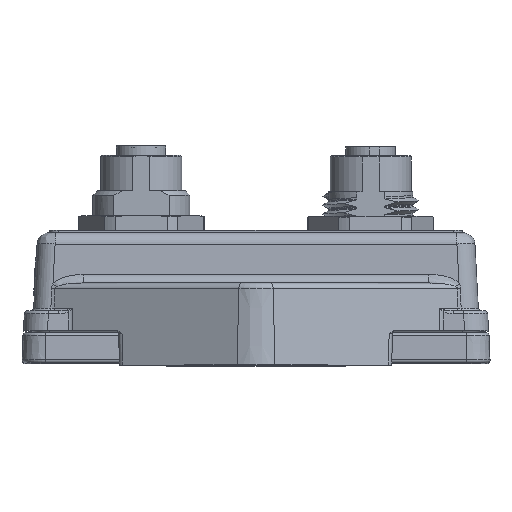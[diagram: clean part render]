
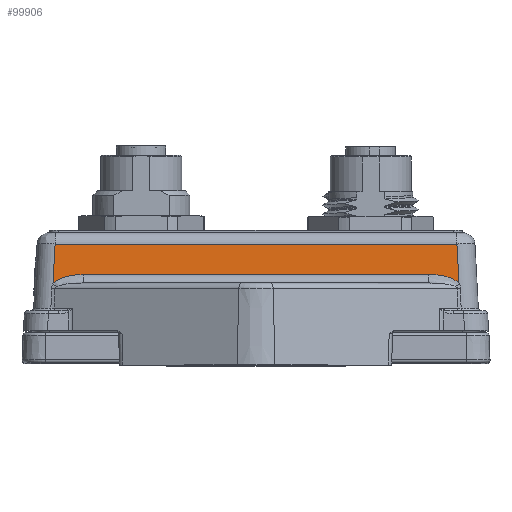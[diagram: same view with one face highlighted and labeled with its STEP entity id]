
A CAD part, top view. The second image highlights one B-rep face of the part: STEP entity #99906.
In plain terms, the highlighted planar face has unit normal (0, 0.052, 0.999).
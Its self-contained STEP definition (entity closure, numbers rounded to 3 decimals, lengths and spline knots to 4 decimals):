
#4134=PLANE('',#104955);
#5599=ELLIPSE('',#104956,0.2215,0.0984);
#5600=ELLIPSE('',#104957,0.2215,0.0984);
#13265=FACE_OUTER_BOUND('',#18836,.T.);
#18836=EDGE_LOOP('',(#84647,#84648,#84649,#84650,#84651,#84652));
#30953=LINE('',#176244,#41235);
#30955=LINE('',#176279,#41237);
#30956=LINE('',#176281,#41238);
#30957=LINE('',#176284,#41239);
#41235=VECTOR('',#118853,0.3937);
#41237=VECTOR('',#118865,0.3937);
#41238=VECTOR('',#118866,0.3937);
#41239=VECTOR('',#118869,0.3937);
#50842=VERTEX_POINT('',#176237);
#50844=VERTEX_POINT('',#176243);
#50846=VERTEX_POINT('',#176276);
#50847=VERTEX_POINT('',#176277);
#50848=VERTEX_POINT('',#176280);
#50849=VERTEX_POINT('',#176282);
#62783=EDGE_CURVE('',#50842,#50844,#30953,.T.);
#62788=EDGE_CURVE('',#50846,#50847,#5599,.T.);
#62789=EDGE_CURVE('',#50844,#50846,#30955,.T.);
#62790=EDGE_CURVE('',#50848,#50842,#30956,.T.);
#62791=EDGE_CURVE('',#50849,#50848,#5600,.T.);
#62792=EDGE_CURVE('',#50847,#50849,#30957,.T.);
#84647=ORIENTED_EDGE('',*,*,#62788,.F.);
#84648=ORIENTED_EDGE('',*,*,#62789,.F.);
#84649=ORIENTED_EDGE('',*,*,#62783,.F.);
#84650=ORIENTED_EDGE('',*,*,#62790,.F.);
#84651=ORIENTED_EDGE('',*,*,#62791,.F.);
#84652=ORIENTED_EDGE('',*,*,#62792,.F.);
#99906=ADVANCED_FACE('',(#13265),#4134,.T.);
#104955=AXIS2_PLACEMENT_3D('',#176275,#118861,#118862);
#104956=AXIS2_PLACEMENT_3D('',#176278,#118863,#118864);
#104957=AXIS2_PLACEMENT_3D('',#176283,#118867,#118868);
#118853=DIRECTION('',(1.,0.,0.));
#118861=DIRECTION('center_axis',(0.,0.052,
0.999));
#118862=DIRECTION('ref_axis',(1.,0.,0.));
#118863=DIRECTION('center_axis',(0.,0.052,
0.999));
#118864=DIRECTION('ref_axis',(1.,0.026,-0.001));
#118865=DIRECTION('',(0.052,-0.997,0.052));
#118866=DIRECTION('',(0.052,0.997,-0.052));
#118867=DIRECTION('center_axis',(0.,0.052,
0.999));
#118868=DIRECTION('ref_axis',(-1.,0.026,-0.001));
#118869=DIRECTION('',(-1.,0.,0.));
#176237=CARTESIAN_POINT('',(-1.3137,0.2455,1.4316));
#176243=CARTESIAN_POINT('',(1.3137,0.2455,1.4316));
#176244=CARTESIAN_POINT('',(0.7345,0.2455,1.4316));
#176275=CARTESIAN_POINT('Origin',(1.469,-0.4674,1.469));
#176276=CARTESIAN_POINT('',(1.3272,-0.0125,1.4452));
#176277=CARTESIAN_POINT('',(1.1303,0.0471,1.442));
#176278=CARTESIAN_POINT('Origin',(1.1199,-0.0513,
1.4472));
#176279=CARTESIAN_POINT('',(1.3474,-0.397,1.4653));
#176280=CARTESIAN_POINT('',(-1.3272,-0.0125,1.4452));
#176281=CARTESIAN_POINT('',(-1.3474,-0.397,1.4653));
#176282=CARTESIAN_POINT('',(-1.1303,0.0471,1.442));
#176283=CARTESIAN_POINT('Origin',(-1.1199,-0.0513,
1.4472));
#176284=CARTESIAN_POINT('',(0.7345,0.0471,1.442));
